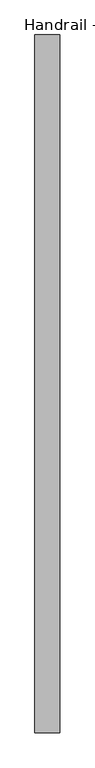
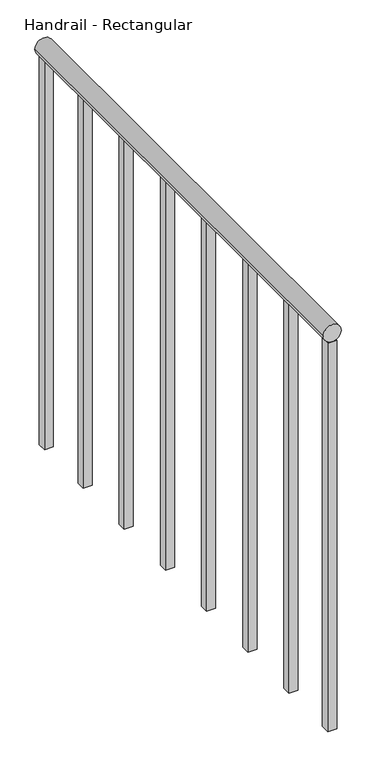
"""IFC4 building model written with IfcOpenShell, lengths in millimetres: railing geometry, Handrail - Rectangular."""

from ifc_helpers import new_model, si_unit, point, frame, frame_2d, origin, place, context, project, spatial, polyline, circle_curve, trimmed, segment, composite_curve, outline, extrude, source, transform, mapped, element, save


def handrail_rectangular_cdcfe162(model_context):
    return source(origin(), model_context, "Body", "SweptSolid", [
        extrude(outline(composite_curve([segment(trimmed(circle_curve(frame_2d((3943.35, 2297.1410437)), 19.05), [point((3943.35, 2316.1910437))], [point((3943.35, 2278.0910437))], False, "CARTESIAN"), True, "CONTINUOUS"), segment(trimmed(circle_curve(frame_2d((3943.35, 2297.1410437)), 19.05), [point((3943.35, 2278.0910437))], [point((3943.35, 2316.1910437))], False, "CARTESIAN"), True, "CONTINUOUS")], self_intersect=False)), frame((0.0, 10674.8316867, 0.0), z_axis=(0.0, 1.0, 0.0), x_axis=(0.0, 0.0, 1.0)), (0.0, 0.0, 1.0), 1066.8),
        extrude(outline(polyline([(2287.6160437, 10836.7566867), (2306.6660437, 10836.7566867), (2306.6660437, 10817.7066867), (2287.6160437, 10817.7066867), (2287.6160437, 10836.7566867)])), frame((0.0, 0.0, 3048.0), z_axis=(0.0, 0.0, 1.0), x_axis=(1.0, 0.0, 0.0)), (0.0, 0.0, 1.0), 876.3),
        extrude(outline(polyline([(2287.6160437, 10989.1566867), (2306.6660437, 10989.1566867), (2306.6660437, 10970.1066867), (2287.6160437, 10970.1066867), (2287.6160437, 10989.1566867)])), frame((0.0, 0.0, 3048.0), z_axis=(0.0, 0.0, 1.0), x_axis=(1.0, 0.0, 0.0)), (0.0, 0.0, 1.0), 876.3),
        extrude(outline(polyline([(2287.6160437, 11141.5566867), (2306.6660437, 11141.5566867), (2306.6660437, 11122.5066867), (2287.6160437, 11122.5066867), (2287.6160437, 11141.5566867)])), frame((0.0, 0.0, 3048.0), z_axis=(0.0, 0.0, 1.0), x_axis=(1.0, 0.0, 0.0)), (0.0, 0.0, 1.0), 876.3),
        extrude(outline(polyline([(2287.6160437, 11293.9566867), (2306.6660437, 11293.9566867), (2306.6660437, 11274.9066867), (2287.6160437, 11274.9066867), (2287.6160437, 11293.9566867)])), frame((0.0, 0.0, 3048.0), z_axis=(0.0, 0.0, 1.0), x_axis=(1.0, 0.0, 0.0)), (0.0, 0.0, 1.0), 876.3),
        extrude(outline(polyline([(2287.6160437, 11446.3566867), (2306.6660437, 11446.3566867), (2306.6660437, 11427.3066867), (2287.6160437, 11427.3066867), (2287.6160437, 11446.3566867)])), frame((0.0, 0.0, 3048.0), z_axis=(0.0, 0.0, 1.0), x_axis=(1.0, 0.0, 0.0)), (0.0, 0.0, 1.0), 876.3),
        extrude(outline(polyline([(2287.6160437, 11598.7566867), (2306.6660437, 11598.7566867), (2306.6660437, 11579.7066867), (2287.6160437, 11579.7066867), (2287.6160437, 11598.7566867)])), frame((0.0, 0.0, 3048.0), z_axis=(0.0, 0.0, 1.0), x_axis=(1.0, 0.0, 0.0)), (0.0, 0.0, 1.0), 876.3),
        extrude(outline(polyline([(2287.6160437, 10693.8816867), (2306.6660437, 10693.8816867), (2306.6660437, 10674.8316867), (2287.6160437, 10674.8316867), (2287.6160437, 10693.8816867)])), frame((0.0, 0.0, 3048.0), z_axis=(0.0, 0.0, 1.0), x_axis=(1.0, 0.0, 0.0)), (0.0, 0.0, 1.0), 876.3),
        extrude(outline(polyline([(2287.6160437, 11741.6316867), (2306.6660437, 11741.6316867), (2306.6660437, 11722.5816867), (2287.6160437, 11722.5816867), (2287.6160437, 11741.6316867)])), frame((0.0, 0.0, 3048.0), z_axis=(0.0, 0.0, 1.0), x_axis=(1.0, 0.0, 0.0)), (0.0, 0.0, 1.0), 876.3),
    ])


if __name__ == "__main__":
    model = new_model("IFC4")
    model_context = context("Model", 3, world=origin())
    ifc_project = project(units=[si_unit("LENGTHUNIT", "METRE", prefix="MILLI")], contexts=[model_context])
    site = spatial("IfcSite", under=ifc_project)
    building = spatial("IfcBuilding", under=site)
    placement = place(None, origin())
    handrail_rectangular_shape = handrail_rectangular_cdcfe162(model_context)
    element("IfcRailing", 1, ObjectType="Handrail - Rectangular", at=placement, inside=building, context=model_context, shape_type="MappedRepresentation", body=[
        mapped(handrail_rectangular_shape, transform((0.0, 0.0, 0.0), x_axis=(1.0, 0.0, 0.0), y_axis=(0.0, 1.0, 0.0), z_axis=(0.0, 0.0, 1.0))),
    ])
    save(model, "model.ifc")
